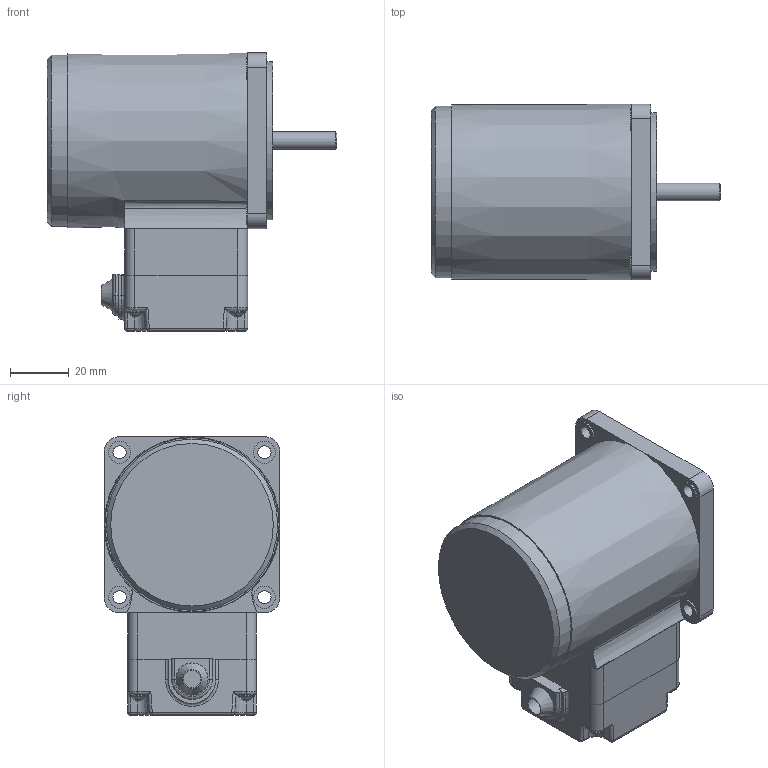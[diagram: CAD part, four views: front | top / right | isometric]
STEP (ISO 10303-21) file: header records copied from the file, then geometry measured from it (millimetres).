
FILE_DESCRIPTION(/* description */ (''),/* implementation_level */ '2;1');
FILE_NAME(/* name */ 'E:\도면작업\2016\0704) 미주향 SG 도면\3D MOTOR\TERMINAL BOX TYPE\INDUCTION TERMINAL BOX\SG6I06S_-T.stp',/* time_stamp */ '2017-01-23T16:17:30+09:00',/* author */ ('jy-jung'),/* organization */ (''),/* preprocessor_version */ 'ST-DEVELOPER v15.6',/* originating_system */ 'Autodesk Inventor 2015',/* authorisation */ '');
FILE_SCHEMA (('AUTOMOTIVE_DESIGN { 1 0 10303 214 3 1 1 }'));
Length unit declared in the file: millimetre
Products named in the file (1): 부품7
Bounding box: 99 x 60 x 95 mm (x, y, z)
Volume: 247327.2 mm3; surface area: 43703.5 mm2
Topology: 1 solids, 6 shells, 547 faces, 1416 edges, 880 vertices
Faces by surface type: plane 270, cylinder 194, torus 34, cone 18, sphere 16, bspline 15
Full cylindrical faces by diameter (mm): 2.5 x2, 3 x4, 3.5 x8, 4.5 x4, 5.6 x4, 6 x2, 7.5 x4, 8 x1, 25 x1, 54 x1, 58.5 x1
Entity records: 17409 total; most frequent: CARTESIAN_POINT 3589, DIRECTION 2811, ORIENTED_EDGE 2676, EDGE_CURVE 1338, AXIS2_PLACEMENT_3D 1016, VERTEX_POINT 872, LINE 779, VECTOR 779
